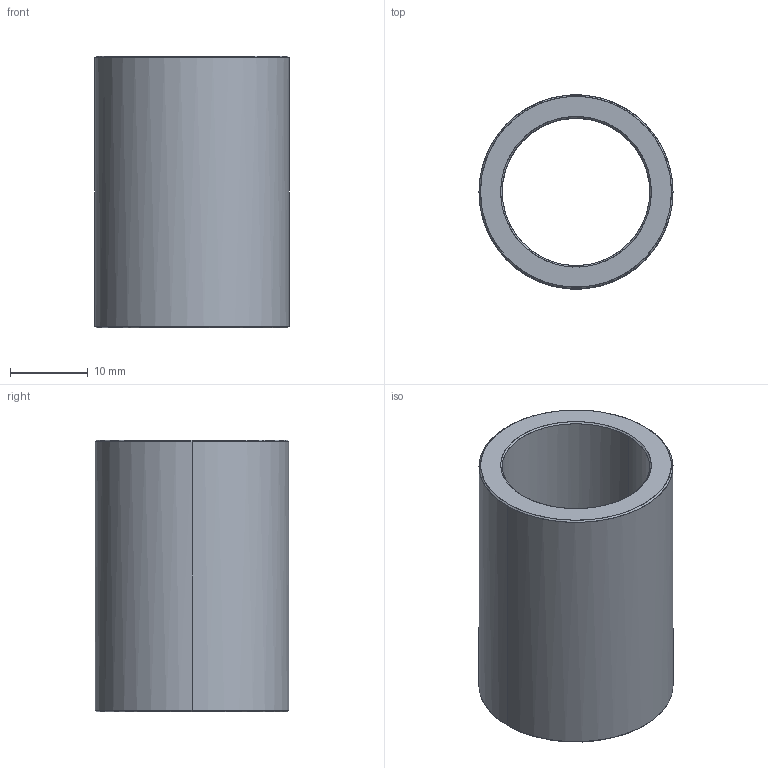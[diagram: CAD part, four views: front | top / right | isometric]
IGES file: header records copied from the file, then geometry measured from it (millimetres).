
Start section: Write IGES format                                    datakit 2008 (c)
Global section: file name: Unknown; native system: DATAKIT Converter; preprocessor: Unknown; author: Unknown; organization: Unknown; date: 950613.180003; units: millimetre
Bounding box: 25 x 24.97 x 35 mm (x, y, z)
Surface area: 5220.4 mm2 (no closed solid volume)
Topology: 0 solids, 0 shells, 14 faces, 56 edges, 56 vertices
Faces by surface type: revolution 12, bspline 2
